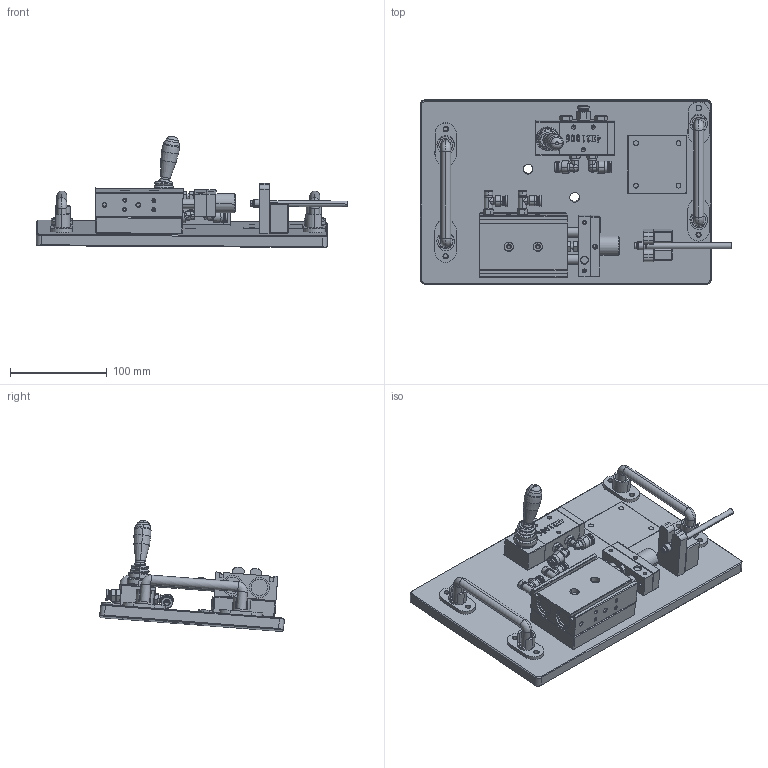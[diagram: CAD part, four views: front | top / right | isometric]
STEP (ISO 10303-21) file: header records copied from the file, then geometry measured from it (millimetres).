
FILE_DESCRIPTION(('CATIA V5 STEP Exchange'),'2;1');
FILE_NAME('C:\Users\Administrator\Desktop\QIMI GZ.stp','2025-06-12T06:37:50+00:00',('none'),('none'),'CATIA Version 5 Release 20 GA (IN-10)','CATIA V5 STEP AP203','none');
FILE_SCHEMA(('CONFIG_CONTROL_DESIGN'));
Length unit declared in the file: millimetre
Products named in the file (1): 测试气密工装
Assembly tree (19 placements, depth 2):
  测试气密工装
    #58
    #3355
    #10128
    #12593
    #14156
    #15114
    #16044
    #16913
    #17964
    #28491  x2
    #32003  x2
    #35615
    #38865  x2
    #40112  x2
    #41485
Bounding box: 321.2 x 190.21 x 114.62 mm (x, y, z)
Volume: 1107617.5 mm3; surface area: 279148.4 mm2
Topology: 32 solids, 34 shells, 1453 faces, 3666 edges, 2375 vertices
Faces by surface type: plane 485, cylinder 477, cone 343, bspline 111, torus 23, revolution 14
Entity records: 41733 total; most frequent: CARTESIAN_POINT 15546, ORIENTED_EDGE 5864, DIRECTION 4207, EDGE_CURVE 2934, AXIS2_PLACEMENT_3D 2039, VERTEX_POINT 1924, EDGE_LOOP 1350, ADVANCED_FACE 1174
